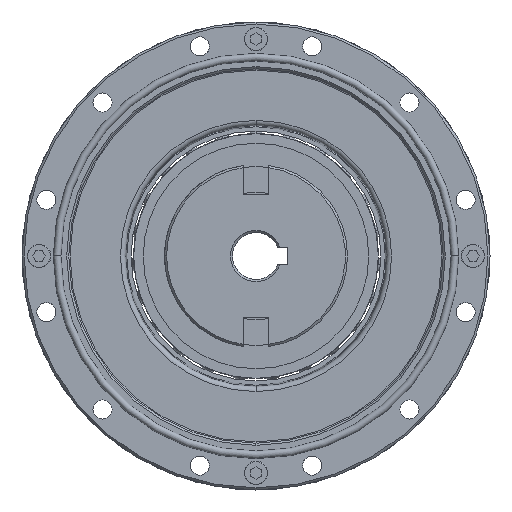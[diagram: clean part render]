
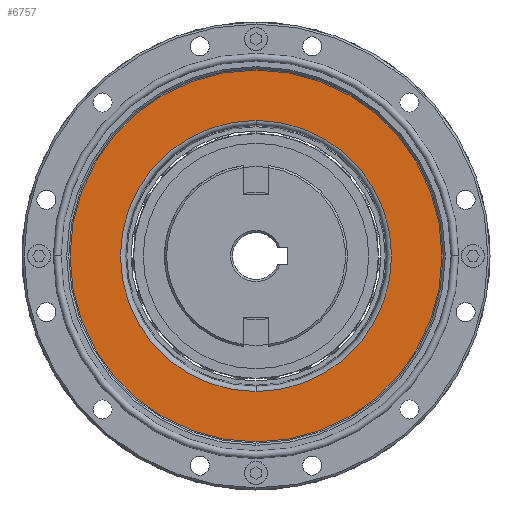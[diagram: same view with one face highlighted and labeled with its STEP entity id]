
A CAD part, left-side view. The second image highlights one B-rep face of the part: STEP entity #6757.
In plain terms, the highlighted planar face has unit normal (-1, 0, 0).
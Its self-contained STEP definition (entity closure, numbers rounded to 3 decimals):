
#76 = CARTESIAN_POINT ( 'NONE',  ( -12.43, 0., 0. ) ) ;
#671 = AXIS2_PLACEMENT_3D ( 'NONE', #76, #12767, #1899 ) ;
#841 = CIRCLE ( 'NONE', #20949, 31.87 ) ;
#851 = VERTEX_POINT ( 'NONE', #5474 ) ;
#1899 = DIRECTION ( 'NONE',  ( 0., 0., 1. ) ) ;
#2668 = CARTESIAN_POINT ( 'NONE',  ( -12.43, 0., 43.7 ) ) ;
#3287 = ORIENTED_EDGE ( 'NONE', *, *, #7698, .T. ) ;
#3882 = EDGE_CURVE ( 'NONE', #6847, #851, #22675, .T. ) ;
#4051 = DIRECTION ( 'NONE',  ( -1., 0., 0. ) ) ;
#4056 = EDGE_CURVE ( 'NONE', #14607, #8300, #10147, .T. ) ;
#4561 = ORIENTED_EDGE ( 'NONE', *, *, #3882, .F. ) ;
#4883 = PLANE ( 'NONE',  #7144 ) ;
#5474 = CARTESIAN_POINT ( 'NONE',  ( -12.43, 0., 31.87 ) ) ;
#5782 = CARTESIAN_POINT ( 'NONE',  ( -12.43, 0., 0. ) ) ;
#5932 = EDGE_CURVE ( 'NONE', #851, #6847, #841, .T. ) ;
#6027 = CARTESIAN_POINT ( 'NONE',  ( -12.43, 0., 0. ) ) ;
#6757 = ADVANCED_FACE ( 'NONE', ( #15260, #9856 ), #4883, .F. ) ;
#6847 = VERTEX_POINT ( 'NONE', #14212 ) ;
#7144 = AXIS2_PLACEMENT_3D ( 'NONE', #17530, #19366, #8508 ) ;
#7602 = DIRECTION ( 'NONE',  ( 0., 0., -1. ) ) ;
#7698 = EDGE_CURVE ( 'NONE', #8300, #14607, #14961, .T. ) ;
#7835 = DIRECTION ( 'NONE',  ( 0., 0., -1. ) ) ;
#8300 = VERTEX_POINT ( 'NONE', #15346 ) ;
#8508 = DIRECTION ( 'NONE',  ( 0., 0., -1. ) ) ;
#9856 = FACE_BOUND ( 'NONE', #20134, .T. ) ;
#10147 = CIRCLE ( 'NONE', #17692, 43.7 ) ;
#12767 = DIRECTION ( 'NONE',  ( -1., 0., 0. ) ) ;
#12924 = ORIENTED_EDGE ( 'NONE', *, *, #5932, .F. ) ;
#14212 = CARTESIAN_POINT ( 'NONE',  ( -12.43, 0., -31.87 ) ) ;
#14607 = VERTEX_POINT ( 'NONE', #2668 ) ;
#14873 = CARTESIAN_POINT ( 'NONE',  ( -12.43, 0., 0. ) ) ;
#14961 = CIRCLE ( 'NONE', #17040, 43.7 ) ;
#15260 = FACE_OUTER_BOUND ( 'NONE', #17074, .T. ) ;
#15346 = CARTESIAN_POINT ( 'NONE',  ( -12.43, 0., -43.7 ) ) ;
#16686 = DIRECTION ( 'NONE',  ( 0., 0., 1. ) ) ;
#17040 = AXIS2_PLACEMENT_3D ( 'NONE', #5782, #18464, #7602 ) ;
#17074 = EDGE_LOOP ( 'NONE', ( #3287, #21849 ) ) ;
#17530 = CARTESIAN_POINT ( 'NONE',  ( -12.43, 44., 0. ) ) ;
#17692 = AXIS2_PLACEMENT_3D ( 'NONE', #6027, #18727, #7835 ) ;
#18464 = DIRECTION ( 'NONE',  ( -1., 0., 0. ) ) ;
#18727 = DIRECTION ( 'NONE',  ( -1., 0., 0. ) ) ;
#19366 = DIRECTION ( 'NONE',  ( 1., 0., 0. ) ) ;
#20134 = EDGE_LOOP ( 'NONE', ( #12924, #4561 ) ) ;
#20949 = AXIS2_PLACEMENT_3D ( 'NONE', #14873, #4051, #16686 ) ;
#21849 = ORIENTED_EDGE ( 'NONE', *, *, #4056, .T. ) ;
#22675 = CIRCLE ( 'NONE', #671, 31.87 ) ;
